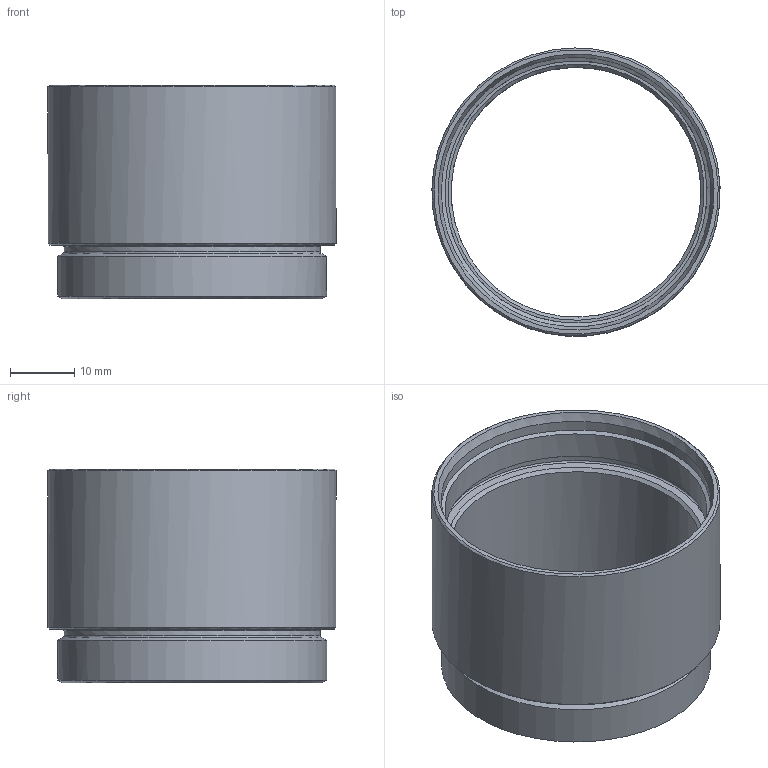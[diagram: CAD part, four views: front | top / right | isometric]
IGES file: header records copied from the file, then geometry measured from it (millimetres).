
Global section: file name: 9H153-13560_LPT Vxx-25.0 (VISOR 2 Übergehäuse)_ohne Gewinde; native system: Autodesk Inventor 2018; preprocessor: unknown; author: ss; date: 20190123.095012; units: millimetre
Bounding box: 44.98 x 44.97 x 33.4 mm (x, y, z)
Volume: 9646.9 mm3; surface area: 9761.9 mm2
Topology: 1 solids, 1 shells, 24 faces, 64 edges, 44 vertices
Faces by surface type: bspline 24
